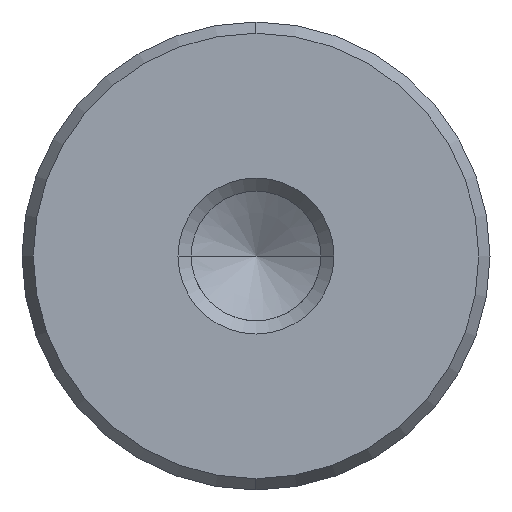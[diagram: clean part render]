
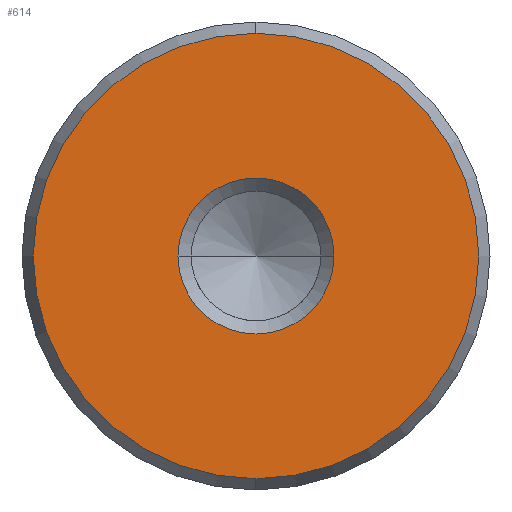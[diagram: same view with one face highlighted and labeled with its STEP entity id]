
A CAD part, left-side view. The second image highlights one B-rep face of the part: STEP entity #614.
In plain terms, the highlighted planar face has unit normal (-1, 0, 0).
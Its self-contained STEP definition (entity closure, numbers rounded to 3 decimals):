
#528=CARTESIAN_POINT('Vertex',(0.,0.,-11.423)) ;
#531=CARTESIAN_POINT('Axis2P3D Location',(0.,0.,0.)) ;
#535=CARTESIAN_POINT('Vertex',(0.,11.423,0.)) ;
#538=CARTESIAN_POINT('Axis2P3D Location',(0.,0.,0.)) ;
#542=CARTESIAN_POINT('Vertex',(0.,0.,11.423)) ;
#564=CARTESIAN_POINT('Axis2P3D Location',(0.,0.,0.)) ;
#568=CARTESIAN_POINT('Vertex',(0.,-11.423,0.)) ;
#571=CARTESIAN_POINT('Axis2P3D Location',(0.,0.,0.)) ;
#585=CARTESIAN_POINT('Axis2P3D Location',(0.,0.,0.)) ;
#596=CARTESIAN_POINT('Axis2P3D Location',(0.,0.,0.)) ;
#600=CARTESIAN_POINT('Vertex',(0.,4.,0.)) ;
#602=CARTESIAN_POINT('Vertex',(0.,-4.,0.)) ;
#605=CARTESIAN_POINT('Axis2P3D Location',(0.,0.,0.)) ;
#532=DIRECTION('Axis2P3D Direction',(1.,0.,-0.)) ;
#539=DIRECTION('Axis2P3D Direction',(1.,0.,-0.)) ;
#565=DIRECTION('Axis2P3D Direction',(1.,0.,-0.)) ;
#572=DIRECTION('Axis2P3D Direction',(1.,0.,-0.)) ;
#586=DIRECTION('Axis2P3D Direction',(1.,0.,-0.)) ;
#587=DIRECTION('Axis2P3D XDirection',(-0.,0.,-1.)) ;
#597=DIRECTION('Axis2P3D Direction',(1.,0.,-0.)) ;
#606=DIRECTION('Axis2P3D Direction',(1.,0.,-0.)) ;
#533=AXIS2_PLACEMENT_3D('Circle Axis2P3D',#531,#532,$) ;
#540=AXIS2_PLACEMENT_3D('Circle Axis2P3D',#538,#539,$) ;
#566=AXIS2_PLACEMENT_3D('Circle Axis2P3D',#564,#565,$) ;
#573=AXIS2_PLACEMENT_3D('Circle Axis2P3D',#571,#572,$) ;
#588=AXIS2_PLACEMENT_3D('Plane Axis2P3D',#585,#586,#587) ;
#598=AXIS2_PLACEMENT_3D('Circle Axis2P3D',#596,#597,$) ;
#607=AXIS2_PLACEMENT_3D('Circle Axis2P3D',#605,#606,$) ;
#591=ORIENTED_EDGE('',*,*,#537,.F.) ;
#592=ORIENTED_EDGE('',*,*,#575,.F.) ;
#593=ORIENTED_EDGE('',*,*,#570,.F.) ;
#594=ORIENTED_EDGE('',*,*,#544,.F.) ;
#611=ORIENTED_EDGE('',*,*,#604,.T.) ;
#612=ORIENTED_EDGE('',*,*,#609,.T.) ;
#613=FACE_BOUND('',#610,.T.) ;
#614=ADVANCED_FACE('720-24x200',(#595,#613),#589,.F.) ;
#534=CIRCLE('generated circle',#533,11.423) ;
#541=CIRCLE('generated circle',#540,11.423) ;
#567=CIRCLE('generated circle',#566,11.423) ;
#574=CIRCLE('generated circle',#573,11.423) ;
#599=CIRCLE('generated circle',#598,4.) ;
#608=CIRCLE('generated circle',#607,4.) ;
#537=EDGE_CURVE('',#529,#536,#534,.T.) ;
#544=EDGE_CURVE('',#536,#543,#541,.T.) ;
#570=EDGE_CURVE('',#543,#569,#567,.T.) ;
#575=EDGE_CURVE('',#569,#529,#574,.T.) ;
#604=EDGE_CURVE('',#601,#603,#599,.T.) ;
#609=EDGE_CURVE('',#603,#601,#608,.T.) ;
#590=EDGE_LOOP('',(#591,#592,#593,#594)) ;
#610=EDGE_LOOP('',(#611,#612)) ;
#595=FACE_OUTER_BOUND('',#590,.T.) ;
#589=PLANE('Plane',#588) ;
#529=VERTEX_POINT('',#528) ;
#536=VERTEX_POINT('',#535) ;
#543=VERTEX_POINT('',#542) ;
#569=VERTEX_POINT('',#568) ;
#601=VERTEX_POINT('',#600) ;
#603=VERTEX_POINT('',#602) ;
